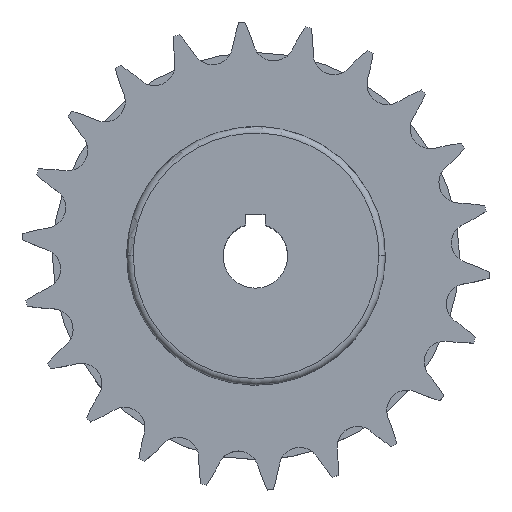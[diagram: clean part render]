
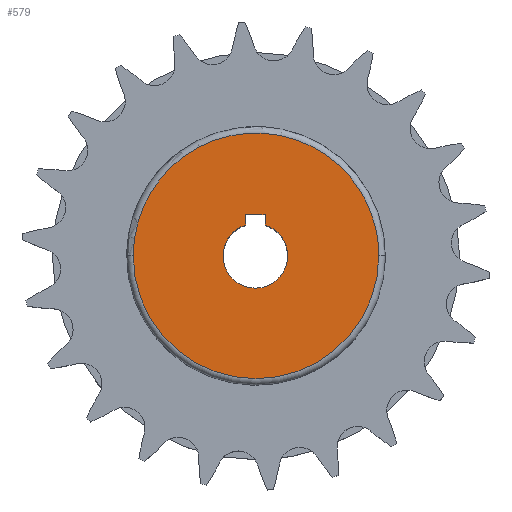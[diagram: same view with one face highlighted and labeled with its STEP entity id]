
A CAD part, top view. The second image highlights one B-rep face of the part: STEP entity #579.
In plain terms, the highlighted planar face has unit normal (0, 0, 1).
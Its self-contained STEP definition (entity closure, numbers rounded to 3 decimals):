
#579=ADVANCED_FACE('',(#1577,#1578),#1579,.T.);
#1577=FACE_BOUND('',#2878,.T.);
#1578=FACE_OUTER_BOUND('',#2879,.T.);
#1579=PLANE('',#2880);
#2878=EDGE_LOOP('',(#4720,#4721,#4722,#4723,#4724,#4725));
#2879=EDGE_LOOP('',(#4726,#4727));
#2880=AXIS2_PLACEMENT_3D('',#4728,#4729,#4730);
#4720=ORIENTED_EDGE('',*,*,#7300,.T.);
#4721=ORIENTED_EDGE('',*,*,#7283,.T.);
#4722=ORIENTED_EDGE('',*,*,#7296,.T.);
#4723=ORIENTED_EDGE('',*,*,#7290,.T.);
#4724=ORIENTED_EDGE('',*,*,#7294,.T.);
#4725=ORIENTED_EDGE('',*,*,#7304,.T.);
#4726=ORIENTED_EDGE('',*,*,#7275,.F.);
#4727=ORIENTED_EDGE('',*,*,#7350,.F.);
#4728=CARTESIAN_POINT('',(19.228,19.228,0.));
#4729=DIRECTION('',(0.,0.0,1.0));
#4730=DIRECTION('',(0.,-1.0,0.));
#7275=EDGE_CURVE('',#8722,#8719,#8724,.F.);
#7283=EDGE_CURVE('',#8738,#8735,#8739,.T.);
#7290=EDGE_CURVE('',#8745,#8749,#8751,.T.);
#7294=EDGE_CURVE('',#8749,#8755,#8757,.T.);
#7296=EDGE_CURVE('',#8735,#8745,#8759,.T.);
#7300=EDGE_CURVE('',#8764,#8738,#8765,.T.);
#7304=EDGE_CURVE('',#8755,#8764,#8769,.T.);
#7350=EDGE_CURVE('',#8719,#8722,#8849,.T.);
#8719=VERTEX_POINT('',#11065);
#8722=VERTEX_POINT('',#11068);
#8724=CIRCLE('',#11070,19.0);
#8735=VERTEX_POINT('',#11083);
#8738=VERTEX_POINT('',#11087);
#8739=CIRCLE('',#11088,5.0);
#8745=VERTEX_POINT('',#11095);
#8749=VERTEX_POINT('',#11100);
#8751=CIRCLE('',#11103,5.0);
#8755=VERTEX_POINT('',#11108);
#8757=LINE('',#11111,#11112);
#8759=CIRCLE('',#11114,5.0);
#8764=VERTEX_POINT('',#11120);
#8765=LINE('',#11121,#11122);
#8769=LINE('',#11128,#11129);
#8849=B_SPLINE_CURVE_WITH_KNOTS('',3,(#11234,#11235,#11236,#11237,#11238,#11239,#11240,#11241,#11242,#11243,#11244,#11245,#11246,#11247,#11248,#11249,#11250,#11251,#11252,#11253,#11254,#11255,#11256,#11257,#11258,#11259,#11260,#11261,#11262,#11263,#11264,#11265,#11266,#11267,#11268,#11269,#11270,#11271,#11272,#11273,#11274,#11275,#11276,#11277,#11278,#11279,#11280,#11281,#11282,#11283,#11284,#11285,#11286,#11287),.UNSPECIFIED.,.F.,.F.,(4,1,1,1,1,1,1,1,1,1,1,1,1,1,1,1,1,1,1,1,1,1,1,1,1,1,1,1,1,1,1,1,1,1,1,1,1,1,1,1,1,1,1,1,1,1,1,1,1,1,1,4),(0.,0.007,0.014,0.021,0.028,0.035,0.042,0.05,0.057,0.064,0.071,0.078,0.085,0.092,0.099,0.106,0.113,0.12,0.127,0.134,0.141,0.149,0.156,0.163,0.17,0.177,0.184,0.191,0.198,0.205,0.263,0.331,0.41,0.5,0.518,0.536,0.546,0.572,0.625,0.652,0.677,0.725,0.83,0.856,0.88,0.902,0.923,0.942,0.959,0.975,0.988,1.0),.UNSPECIFIED.);
#11065=CARTESIAN_POINT('',(-19.0,0.,0.));
#11068=CARTESIAN_POINT('',(19.0,0.,0.));
#11070=AXIS2_PLACEMENT_3D('',#13224,#13225,#13226);
#11083=CARTESIAN_POINT('',(4.9,0.,0.));
#11087=CARTESIAN_POINT('',(1.4,4.77,0.0));
#11088=AXIS2_PLACEMENT_3D('',#13236,#13237,#13238);
#11095=CARTESIAN_POINT('',(-5.1,0.,0.));
#11100=CARTESIAN_POINT('',(-1.6,4.77,0.0));
#11103=AXIS2_PLACEMENT_3D('',#13248,#13249,#13250);
#11108=CARTESIAN_POINT('',(-1.6,6.4,0.));
#11111=CARTESIAN_POINT('',(-1.6,11.214,0.));
#11112=VECTOR('',#13253,1.0);
#11114=AXIS2_PLACEMENT_3D('',#13254,#13255,#13256);
#11120=CARTESIAN_POINT('',(1.4,6.4,0.));
#11121=CARTESIAN_POINT('',(1.4,11.214,0.));
#11122=VECTOR('',#13261,1.0);
#11128=CARTESIAN_POINT('',(9.564,6.4,0.));
#11129=VECTOR('',#13264,1.0);
#11234=CARTESIAN_POINT('',(-19.,0.,0.));
#11235=CARTESIAN_POINT('',(-18.999,0.141,0.));
#11236=CARTESIAN_POINT('',(-18.997,0.422,0.));
#11237=CARTESIAN_POINT('',(-18.983,0.843,0.));
#11238=CARTESIAN_POINT('',(-18.959,1.264,0.));
#11239=CARTESIAN_POINT('',(-18.927,1.684,0.));
#11240=CARTESIAN_POINT('',(-18.885,2.104,0.));
#11241=CARTESIAN_POINT('',(-18.833,2.522,0.));
#11242=CARTESIAN_POINT('',(-18.773,2.94,0.));
#11243=CARTESIAN_POINT('',(-18.703,3.355,0.));
#11244=CARTESIAN_POINT('',(-18.624,3.77,0.));
#11245=CARTESIAN_POINT('',(-18.536,4.182,0.));
#11246=CARTESIAN_POINT('',(-18.438,4.592,0.));
#11247=CARTESIAN_POINT('',(-18.332,5.,0.));
#11248=CARTESIAN_POINT('',(-18.216,5.406,0.));
#11249=CARTESIAN_POINT('',(-18.092,5.808,0.));
#11250=CARTESIAN_POINT('',(-17.959,6.208,0.));
#11251=CARTESIAN_POINT('',(-17.816,6.605,0.));
#11252=CARTESIAN_POINT('',(-17.665,6.999,0.));
#11253=CARTESIAN_POINT('',(-17.506,7.389,0.));
#11254=CARTESIAN_POINT('',(-17.338,7.776,0.));
#11255=CARTESIAN_POINT('',(-17.161,8.159,0.));
#11256=CARTESIAN_POINT('',(-16.975,8.537,0.));
#11257=CARTESIAN_POINT('',(-16.782,8.912,0.));
#11258=CARTESIAN_POINT('',(-16.58,9.282,0.));
#11259=CARTESIAN_POINT('',(-16.37,9.648,0.));
#11260=CARTESIAN_POINT('',(-16.152,10.009,0.));
#11261=CARTESIAN_POINT('',(-15.926,10.364,0.));
#11262=CARTESIAN_POINT('',(-15.692,10.715,0.));
#11263=CARTESIAN_POINT('',(-15.45,11.061,0.));
#11264=CARTESIAN_POINT('',(-14.606,12.213,0.));
#11265=CARTESIAN_POINT('',(-12.822,14.191,0.));
#11266=CARTESIAN_POINT('',(-9.522,16.639,0.));
#11267=CARTESIAN_POINT('',(-5.153,18.522,0.));
#11268=CARTESIAN_POINT('',(-1.42,19.051,0.));
#11269=CARTESIAN_POINT('',(1.08,18.979,0.));
#11270=CARTESIAN_POINT('',(1.994,18.902,0.));
#11271=CARTESIAN_POINT('',(3.064,18.763,0.));
#11272=CARTESIAN_POINT('',(4.805,18.435,0.));
#11273=CARTESIAN_POINT('',(6.814,17.792,0.));
#11274=CARTESIAN_POINT('',(8.697,16.916,0.));
#11275=CARTESIAN_POINT('',(10.42,15.94,0.));
#11276=CARTESIAN_POINT('',(13.284,13.852,0.));
#11277=CARTESIAN_POINT('',(15.624,11.072,0.));
#11278=CARTESIAN_POINT('',(17.084,8.359,0.));
#11279=CARTESIAN_POINT('',(17.669,7.032,0.));
#11280=CARTESIAN_POINT('',(18.119,5.767,0.));
#11281=CARTESIAN_POINT('',(18.453,4.577,0.));
#11282=CARTESIAN_POINT('',(18.69,3.472,0.));
#11283=CARTESIAN_POINT('',(18.848,2.461,0.));
#11284=CARTESIAN_POINT('',(18.943,1.549,0.));
#11285=CARTESIAN_POINT('',(18.992,0.74,0.));
#11286=CARTESIAN_POINT('',(18.997,0.235,0.));
#11287=CARTESIAN_POINT('',(19.,0.,0.));
#13224=CARTESIAN_POINT('',(0.,0.,0.));
#13225=DIRECTION('',(0.,0.,1.0));
#13226=DIRECTION('',(-1.0,0.,0.));
#13236=CARTESIAN_POINT('',(-0.1,0.,0.));
#13237=DIRECTION('',(0.,0.0,-1.0));
#13238=DIRECTION('',(-1.0,0.,0.));
#13248=CARTESIAN_POINT('',(-0.1,0.,0.));
#13249=DIRECTION('',(0.,0.0,-1.0));
#13250=DIRECTION('',(-1.0,0.,0.));
#13253=DIRECTION('',(0.,1.0,0.));
#13254=CARTESIAN_POINT('',(-0.1,0.,0.));
#13255=DIRECTION('',(0.,0.0,-1.0));
#13256=DIRECTION('',(-1.0,0.,0.));
#13261=DIRECTION('',(0.,-1.0,0.));
#13264=DIRECTION('',(1.0,0.,0.));
